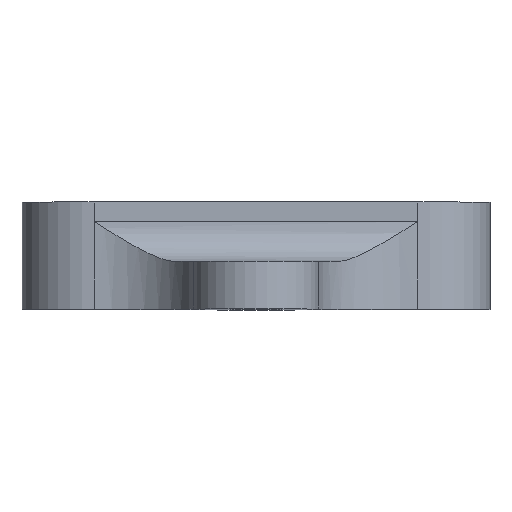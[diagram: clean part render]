
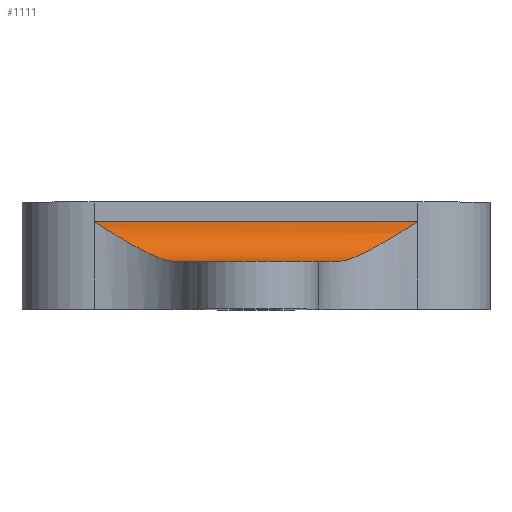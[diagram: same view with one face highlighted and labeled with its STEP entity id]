
A CAD part, top view. The second image highlights one B-rep face of the part: STEP entity #1111.
In plain terms, the highlighted cylindrical face has radius 2.5 mm (diameter 5 mm), a partial arc.
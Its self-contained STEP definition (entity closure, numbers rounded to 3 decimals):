
#23 = CARTESIAN_POINT ( 'NONE',  ( -5.107, 3., 13.39 ) ) ;
#118 = VERTEX_POINT ( 'NONE', #1465 ) ;
#175 = CARTESIAN_POINT ( 'NONE',  ( 9.704, 5.214, 10.89 ) ) ;
#228 = CARTESIAN_POINT ( 'NONE',  ( -5.818, 3.121, 12.597 ) ) ;
#251 = CARTESIAN_POINT ( 'NONE',  ( -9.024, 4.791, 10.988 ) ) ;
#265 = LINE ( 'NONE', #1295, #523 ) ;
#269 = VERTEX_POINT ( 'NONE', #1868 ) ;
#345 = CARTESIAN_POINT ( 'NONE',  ( 8.353, 4.382, 11.135 ) ) ;
#380 = CARTESIAN_POINT ( 'NONE',  ( 7.041, 3.648, 11.702 ) ) ;
#386 = CARTESIAN_POINT ( 'NONE',  ( -7.041, 3.648, 11.702 ) ) ;
#492 = EDGE_CURVE ( 'NONE', #118, #1220, #2155, .T. ) ;
#523 = VECTOR ( 'NONE', #2211, 1000. ) ;
#545 = CARTESIAN_POINT ( 'NONE',  ( -9.933, 5.358, 10.89 ) ) ;
#557 = CARTESIAN_POINT ( 'NONE',  ( -6.015, 3.189, 12.421 ) ) ;
#609 = ORIENTED_EDGE ( 'NONE', *, *, #838, .F. ) ;
#689 = CARTESIAN_POINT ( 'NONE',  ( 10.16, 5.5, 10.89 ) ) ;
#698 = CARTESIAN_POINT ( 'NONE',  ( 5.272, 3., 13.174 ) ) ;
#802 = CYLINDRICAL_SURFACE ( 'NONE', #1461, 2.5 ) ;
#827 = EDGE_CURVE ( 'NONE', #269, #118, #1083, .T. ) ;
#838 = EDGE_CURVE ( 'NONE', #1220, #1238, #265, .T. ) ;
#856 = CARTESIAN_POINT ( 'NONE',  ( 10.16, 3., 13.39 ) ) ;
#862 = CARTESIAN_POINT ( 'NONE',  ( 5.447, 3.027, 12.973 ) ) ;
#874 = CARTESIAN_POINT ( 'NONE',  ( 5.818, 3.121, 12.597 ) ) ;
#896 = CARTESIAN_POINT ( 'NONE',  ( 9.247, 4.928, 10.939 ) ) ;
#899 = DIRECTION ( 'NONE',  ( -1., 0., 0. ) ) ;
#906 = CARTESIAN_POINT ( 'NONE',  ( -5.447, 3.027, 12.973 ) ) ;
#910 = CARTESIAN_POINT ( 'NONE',  ( 7.257, 3.762, 11.587 ) ) ;
#940 = CARTESIAN_POINT ( 'NONE',  ( -6.416, 3.349, 12.103 ) ) ;
#951 = CARTESIAN_POINT ( 'NONE',  ( -9.249, 4.931, 10.951 ) ) ;
#1007 = ORIENTED_EDGE ( 'NONE', *, *, #492, .F. ) ;
#1014 = DIRECTION ( 'NONE',  ( -1., 0., 0. ) ) ;
#1083 = LINE ( 'NONE', #856, #2117 ) ;
#1087 = CARTESIAN_POINT ( 'NONE',  ( -8.353, 4.382, 11.135 ) ) ;
#1111 = ADVANCED_FACE ( 'NONE', ( #1150 ), #802, .F. ) ;
#1127 = B_SPLINE_CURVE_WITH_KNOTS ( 'NONE', 3,
 ( #689, #175, #896, #345, #1221, #910, #380, #1603, #1399, #1789, #874, #862, #698, #1960 ),
 .UNSPECIFIED., .F., .F.,
 ( 4, 2, 2, 2, 2, 2, 4 ),
 ( 0., 0.002, 0.003, 0.004, 0.005, 0.006, 0.006 ),
 .UNSPECIFIED. ) ;
#1133 = EDGE_CURVE ( 'NONE', #1238, #269, #1127, .T. ) ;
#1150 = FACE_OUTER_BOUND ( 'NONE', #2110, .T. ) ;
#1220 = VERTEX_POINT ( 'NONE', #2279 ) ;
#1221 = CARTESIAN_POINT ( 'NONE',  ( 7.913, 4.121, 11.281 ) ) ;
#1238 = VERTEX_POINT ( 'NONE', #2127 ) ;
#1251 = CARTESIAN_POINT ( 'NONE',  ( -10.16, 5.5, 10.89 ) ) ;
#1266 = CARTESIAN_POINT ( 'NONE',  ( -7.913, 4.121, 11.281 ) ) ;
#1295 = CARTESIAN_POINT ( 'NONE',  ( 10.16, 5.5, 10.89 ) ) ;
#1299 = CARTESIAN_POINT ( 'NONE',  ( -6.621, 3.442, 11.96 ) ) ;
#1399 = CARTESIAN_POINT ( 'NONE',  ( 6.416, 3.349, 12.103 ) ) ;
#1450 = CARTESIAN_POINT ( 'NONE',  ( -5.272, 3., 13.174 ) ) ;
#1461 = AXIS2_PLACEMENT_3D ( 'NONE', #1511, #1014, #1721 ) ;
#1465 = CARTESIAN_POINT ( 'NONE',  ( -5.107, 3., 13.39 ) ) ;
#1511 = CARTESIAN_POINT ( 'NONE',  ( 10.16, 5.5, 13.39 ) ) ;
#1598 = ORIENTED_EDGE ( 'NONE', *, *, #827, .F. ) ;
#1603 = CARTESIAN_POINT ( 'NONE',  ( 6.621, 3.442, 11.96 ) ) ;
#1721 = DIRECTION ( 'NONE',  ( 0., 0., 1. ) ) ;
#1789 = CARTESIAN_POINT ( 'NONE',  ( 6.015, 3.189, 12.421 ) ) ;
#1832 = CARTESIAN_POINT ( 'NONE',  ( -7.257, 3.762, 11.587 ) ) ;
#1861 = ORIENTED_EDGE ( 'NONE', *, *, #1133, .F. ) ;
#1868 = CARTESIAN_POINT ( 'NONE',  ( 5.107, 3., 13.39 ) ) ;
#1960 = CARTESIAN_POINT ( 'NONE',  ( 5.107, 3., 13.39 ) ) ;
#2110 = EDGE_LOOP ( 'NONE', ( #1861, #609, #1007, #1598 ) ) ;
#2117 = VECTOR ( 'NONE', #899, 1000. ) ;
#2127 = CARTESIAN_POINT ( 'NONE',  ( 10.16, 5.5, 10.89 ) ) ;
#2134 = CARTESIAN_POINT ( 'NONE',  ( -9.704, 5.214, 10.902 ) ) ;
#2155 = B_SPLINE_CURVE_WITH_KNOTS ( 'NONE', 3,
 ( #23, #1450, #906, #228, #557, #940, #1299, #386, #1832, #1266, #1087, #251, #951, #2134, #545, #1251 ),
 .UNSPECIFIED., .F., .F.,
 ( 4, 2, 2, 2, 2, 2, 2, 4 ),
 ( 0., 0.001, 0.002, 0.002, 0.003, 0.005, 0.006, 0.006 ),
 .UNSPECIFIED. ) ;
#2211 = DIRECTION ( 'NONE',  ( 1., 0., 0. ) ) ;
#2279 = CARTESIAN_POINT ( 'NONE',  ( -10.16, 5.5, 10.89 ) ) ;
